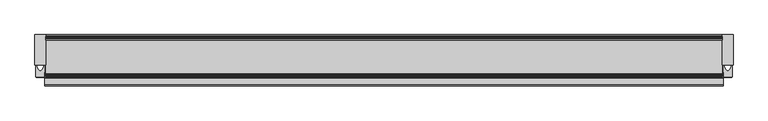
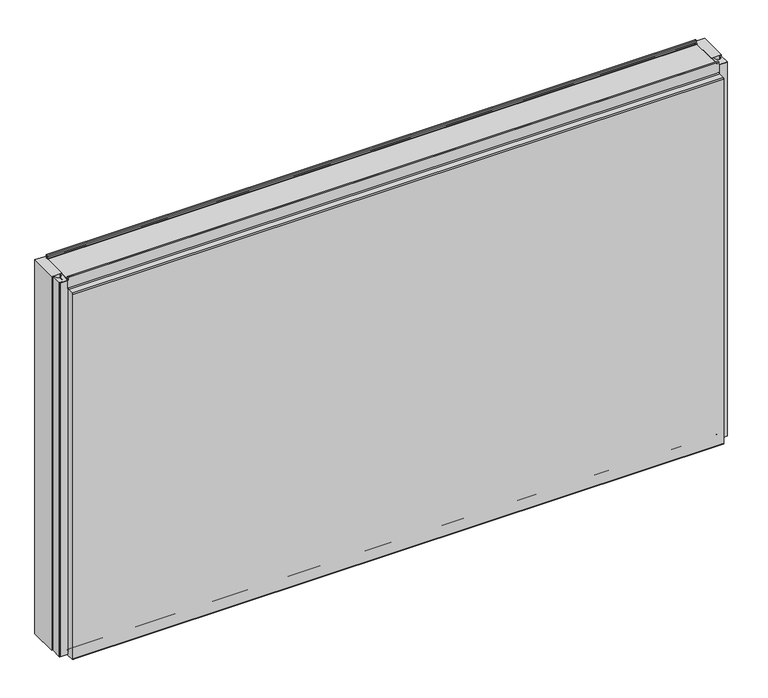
"""IFC4 building model written with IfcOpenShell, lengths in millimetres: plate geometry, Fronttop : Fronttop 150/1200."""

from ifc_helpers import new_model, si_unit, point, frame, frame_2d, origin, origin_with_axes, place, context, project, spatial, polyline, circle_curve, trimmed, segment, composite_curve, outline, extrude, source, transform, mapped, element, save
from ifc_brep_helpers import plane_surface, cylinder_surface, revolved_surface, advanced_brep


def plate_29757197(model_context):
    return source(origin(), model_context, "Body", "SolidModel", [
        advanced_brep(
        [(-986.5, -124.0, 1208.0), (-986.5, -124.0, 1200.0), (-986.5, -125.0, 1200.0), (-986.5, -125.0, 1208.0), (-986.5, -120.0, 1208.0), (-986.5, -120.0, 1204.0), (-986.5, -117.0, 1201.0), (-986.5, -115.0, 1201.0), (-986.5, -115.0, 1200.0), (-986.5, -117.0, 1200.0), (-986.5, -121.0, 1204.0), (-986.5, -121.0, 1208.0), (986.5, -125.0, 1208.0), (986.5, -125.0, 1200.0), (986.5, -124.0, 1200.0), (986.5, -124.0, 1208.0), (986.5, -121.0, 1208.0), (986.5, -121.0, 1204.0), (986.5, -117.0, 1200.0), (986.5, -115.0, 1200.0), (986.5, -115.0, 1201.0), (986.5, -117.0, 1201.0), (986.5, -120.0, 1204.0), (986.5, -120.0, 1208.0), (-986.5, -117.0, 2.0), (-986.5, -115.0, 2.0), (986.5, -115.0, 2.0), (986.5, -117.0, 2.0), (986.5, -119.0, 4.0), (-986.5, -119.0, 4.0), (986.5, -119.0, 8.0), (-986.5, -119.0, 8.0), (986.5, -126.0, 8.0), (-986.5, -126.0, 8.0), (986.5, -126.0, 0.0), (-986.5, -126.0, 0.0), (986.5, -129.0, -3.0), (-986.5, -129.0, -3.0), (986.5, -125.0, -3.0), (987.5, -125.0, -3.0), (987.5, -147.0, -3.0), (986.5, -147.0, -3.0), (-986.5, -147.0, -3.0), (-987.5, -147.0, -3.0), (-987.5, -125.0, -3.0), (-986.5, -125.0, -3.0), (986.5, -150.0, 0.0), (-986.5, -150.0, 0.0), (987.5, -150.0, 0.0), (987.5, -150.0, 1169.0), (986.5, -150.0, 1169.0), (-986.5, -150.0, 1169.0), (-987.5, -150.0, 1169.0), (-987.5, -150.0, 0.0), (986.5, -147.0, 1172.0), (-986.5, -147.0, 1172.0), (987.5, -147.0, 1172.0), (987.5, -128.0, 1172.0), (986.5, -128.0, 1172.0), (-986.5, -128.0, 1172.0), (-987.5, -128.0, 1172.0), (-987.5, -147.0, 1172.0), (986.5, -125.0, 1175.0), (-986.5, -125.0, 1175.0), (987.5, -125.0, 1175.0), (987.5, -125.0, 1200.0), (-987.5, -125.0, 1200.0), (-987.5, -125.0, 1175.0), (986.5, -124.0, 1175.0), (-986.5, -124.0, 1175.0), (986.5, -128.0, 1171.0), (-986.5, -128.0, 1171.0), (986.5, -147.0, 1171.0), (-986.5, -147.0, 1171.0), (986.5, -149.0, 1169.0), (-986.5, -149.0, 1169.0), (986.5, -149.0, 0.0), (-986.5, -149.0, 0.0), (986.5, -147.0, -2.0), (-986.5, -147.0, -2.0), (986.5, -129.0, -2.0), (-986.5, -129.0, -2.0), (986.5, -127.0, 0.0), (-986.5, -127.0, 0.0), (986.5, -127.0, 8.0), (-986.5, -127.0, 8.0), (986.5, -118.0, 8.0), (-986.5, -118.0, 8.0), (986.5, -118.0, 4.0), (-986.5, -118.0, 4.0), (986.5, -117.0, 3.0), (-986.5, -117.0, 3.0), (986.5, -115.0, 3.0), (-986.5, -115.0, 3.0), (987.5, -125.0, 0.0), (987.5, -110.0, 0.0), (987.5, -110.0, 1200.0), (986.5, -110.0, 1200.0), (986.5, -110.0, 0.0), (986.5, -125.0, 0.0), (-987.5, -110.0, 1200.0), (-987.5, -110.0, 0.0), (-987.5, -125.0, 0.0), (-986.5, -110.0, 1200.0), (-986.5, -125.0, 0.0), (-986.5, -110.0, 0.0)],
        [
            (0, 1),
            (1, 2),
            (2, 3),
            (3, 4, circle_curve(frame((-986.5, -122.5, 1208.0), z_axis=(-1.0, 0.0, 0.0), x_axis=(0.0, 1.0, 0.0)), 2.5)),
            (4, 5),
            (5, 6, circle_curve(frame((-986.5, -117.0, 1204.0), z_axis=(1.0, 0.0, 0.0), x_axis=(0.0, 1.0, 0.0)), 3.0)),
            (6, 7),
            (7, 8),
            (8, 9),
            (9, 10, circle_curve(frame((-986.5, -117.0, 1204.0), z_axis=(-1.0, 0.0, 0.0), x_axis=(0.0, 1.0, 0.0)), 4.0)),
            (10, 11),
            (11, 0, circle_curve(frame((-986.5, -122.5, 1208.0), z_axis=(1.0, 0.0, 0.0), x_axis=(0.0, 1.0, 0.0)), 1.5)),
            (12, 13),
            (13, 14),
            (14, 15),
            (15, 16, circle_curve(frame((986.5, -122.5, 1208.0), z_axis=(-1.0, 0.0, 0.0), x_axis=(0.0, 1.0, 0.0)), 1.5)),
            (16, 17),
            (17, 18, circle_curve(frame((986.5, -117.0, 1204.0), z_axis=(1.0, 0.0, 0.0), x_axis=(0.0, 1.0, 0.0)), 4.0)),
            (18, 19),
            (19, 20),
            (20, 21),
            (21, 22, circle_curve(frame((986.5, -117.0, 1204.0), z_axis=(-1.0, 0.0, 0.0), x_axis=(0.0, 1.0, 0.0)), 3.0)),
            (22, 23),
            (23, 12, circle_curve(frame((986.5, -122.5, 1208.0), z_axis=(1.0, 0.0, 0.0), x_axis=(0.0, 1.0, 0.0)), 2.5)),
            (24, 25),
            (25, 26),
            (26, 27),
            (27, 24),
            (27, 28, circle_curve(frame((986.5, -117.0, 4.0), z_axis=(-1.0, 0.0, 0.0), x_axis=(0.0, 1.0, 0.0)), 2.0)),
            (28, 29),
            (29, 24, circle_curve(frame((-986.5, -117.0, 4.0), z_axis=(1.0, 0.0, 0.0), x_axis=(0.0, 1.0, 0.0)), 2.0)),
            (28, 30),
            (30, 31),
            (31, 29),
            (30, 32, circle_curve(frame((986.5, -122.5, 8.0), z_axis=(1.0, 0.0, 0.0), x_axis=(0.0, 1.0, 0.0)), 3.5)),
            (32, 33),
            (33, 31, circle_curve(frame((-986.5, -122.5, 8.0), z_axis=(-1.0, 0.0, 0.0), x_axis=(0.0, 1.0, 0.0)), 3.5)),
            (32, 34),
            (34, 35),
            (35, 33),
            (34, 36, circle_curve(frame((986.5, -129.0, 0.0), z_axis=(-1.0, 0.0, 0.0), x_axis=(0.0, 1.0, 0.0)), 3.0)),
            (36, 37),
            (37, 35, circle_curve(frame((-986.5, -129.0, 0.0), z_axis=(1.0, 0.0, 0.0), x_axis=(0.0, 1.0, 0.0)), 3.0)),
            (36, 38),
            (38, 39),
            (39, 40),
            (40, 41),
            (41, 42),
            (42, 43),
            (43, 44),
            (44, 45),
            (45, 37),
            (41, 46, circle_curve(frame((986.5, -147.0, 0.0), z_axis=(-1.0, 0.0, 0.0), x_axis=(0.0, 1.0, 0.0)), 3.0)),
            (46, 47),
            (47, 42, circle_curve(frame((-986.5, -147.0, 0.0), z_axis=(1.0, 0.0, 0.0), x_axis=(0.0, 1.0, 0.0)), 3.0)),
            (46, 48),
            (48, 49),
            (49, 50),
            (50, 51),
            (51, 52),
            (52, 53),
            (53, 47),
            (50, 54, circle_curve(frame((986.5, -147.0, 1169.0), z_axis=(-1.0, 0.0, 0.0), x_axis=(0.0, 1.0, 0.0)), 3.0)),
            (54, 55),
            (55, 51, circle_curve(frame((-986.5, -147.0, 1169.0), z_axis=(1.0, 0.0, 0.0), x_axis=(0.0, 1.0, 0.0)), 3.0)),
            (54, 56),
            (56, 57),
            (57, 58),
            (58, 59),
            (59, 60),
            (60, 61),
            (61, 55),
            (58, 62, circle_curve(frame((986.5, -128.0, 1175.0), z_axis=(1.0, 0.0, 0.0), x_axis=(0.0, 1.0, 0.0)), 3.0)),
            (62, 63),
            (63, 59, circle_curve(frame((-986.5, -128.0, 1175.0), z_axis=(-1.0, 0.0, 0.0), x_axis=(0.0, 1.0, 0.0)), 3.0)),
            (62, 64),
            (64, 65),
            (65, 13),
            (12, 3),
            (2, 66),
            (66, 67),
            (67, 63),
            (23, 4),
            (22, 5),
            (21, 6),
            (20, 7),
            (19, 8),
            (19, 18),
            (18, 9),
            (9, 8),
            (17, 10),
            (16, 11),
            (15, 0),
            (14, 68),
            (68, 69),
            (69, 1),
            (68, 70, circle_curve(frame((986.5, -128.0, 1175.0), z_axis=(-1.0, 0.0, 0.0), x_axis=(0.0, 1.0, 0.0)), 4.0)),
            (70, 71),
            (71, 69, circle_curve(frame((-986.5, -128.0, 1175.0), z_axis=(1.0, 0.0, 0.0), x_axis=(0.0, 1.0, 0.0)), 4.0)),
            (70, 72),
            (72, 73),
            (73, 71),
            (72, 74, circle_curve(frame((986.5, -147.0, 1169.0), z_axis=(1.0, 0.0, 0.0), x_axis=(0.0, 1.0, 0.0)), 2.0)),
            (74, 75),
            (75, 73, circle_curve(frame((-986.5, -147.0, 1169.0), z_axis=(-1.0, 0.0, 0.0), x_axis=(0.0, 1.0, 0.0)), 2.0)),
            (74, 76),
            (76, 77),
            (77, 75),
            (76, 78, circle_curve(frame((986.5, -147.0, 0.0), z_axis=(1.0, 0.0, 0.0), x_axis=(0.0, 1.0, 0.0)), 2.0)),
            (78, 79),
            (79, 77, circle_curve(frame((-986.5, -147.0, 0.0), z_axis=(-1.0, 0.0, 0.0), x_axis=(0.0, 1.0, 0.0)), 2.0)),
            (78, 80),
            (80, 81),
            (81, 79),
            (80, 82, circle_curve(frame((986.5, -129.0, 0.0), z_axis=(1.0, 0.0, 0.0), x_axis=(0.0, 1.0, 0.0)), 2.0)),
            (82, 83),
            (83, 81, circle_curve(frame((-986.5, -129.0, 0.0), z_axis=(-1.0, 0.0, 0.0), x_axis=(0.0, 1.0, 0.0)), 2.0)),
            (82, 84),
            (84, 85),
            (85, 83),
            (84, 86, circle_curve(frame((986.5, -122.5, 8.0), z_axis=(-1.0, 0.0, 0.0), x_axis=(0.0, 1.0, 0.0)), 4.5)),
            (86, 87),
            (87, 85, circle_curve(frame((-986.5, -122.5, 8.0), z_axis=(1.0, 0.0, 0.0), x_axis=(0.0, 1.0, 0.0)), 4.5)),
            (86, 88),
            (88, 89),
            (89, 87),
            (88, 90, circle_curve(frame((986.5, -117.0, 4.0), z_axis=(1.0, 0.0, 0.0), x_axis=(0.0, 1.0, 0.0)), 1.0)),
            (90, 91),
            (91, 89, circle_curve(frame((-986.5, -117.0, 4.0), z_axis=(-1.0, 0.0, 0.0), x_axis=(0.0, 1.0, 0.0)), 1.0)),
            (90, 92),
            (92, 93),
            (93, 91),
            (25, 93),
            (92, 26),
            (64, 57, circle_curve(frame((987.5, -128.0, 1175.0), z_axis=(-1.0, 0.0, 0.0), x_axis=(0.0, -1.0, 0.0)), 3.0)),
            (56, 49, circle_curve(frame((987.5, -147.0, 1169.0), z_axis=(1.0, 0.0, 0.0), x_axis=(0.0, -1.0, 0.0)), 3.0)),
            (48, 40, circle_curve(frame((987.5, -147.0, 0.0), z_axis=(1.0, 0.0, 0.0), x_axis=(0.0, -1.0, 0.0)), 3.0)),
            (39, 94),
            (94, 95),
            (95, 96),
            (96, 65),
            (14, 18),
            (19, 97),
            (97, 98),
            (98, 99),
            (99, 38),
            (96, 97),
            (95, 98),
            (94, 99),
            (66, 100),
            (100, 101),
            (101, 102),
            (102, 44),
            (43, 53, circle_curve(frame((-987.5, -147.0, 0.0), z_axis=(-1.0, 0.0, 0.0), x_axis=(0.0, -1.0, 0.0)), 3.0)),
            (52, 61, circle_curve(frame((-987.5, -147.0, 1169.0), z_axis=(-1.0, 0.0, 0.0), x_axis=(0.0, -1.0, 0.0)), 3.0)),
            (60, 67, circle_curve(frame((-987.5, -128.0, 1175.0), z_axis=(1.0, 0.0, 0.0), x_axis=(0.0, -1.0, 0.0)), 3.0)),
            (103, 8),
            (9, 1),
            (45, 104),
            (104, 105),
            (105, 103),
            (103, 100),
            (105, 101),
            (104, 102),
        ],
        [
            plane_surface(frame((-986.5, 0.0, 0.0), z_axis=(-1.0, 0.0, 0.0), x_axis=(0.0, 0.0, 1.0))),
            plane_surface(frame((986.5, 0.0, 0.0), z_axis=(1.0, 0.0, 0.0), x_axis=(0.0, 0.0, 1.0))),
            plane_surface(frame((-986.5, -117.0, 2.0), z_axis=(0.0, 0.0, -1.0), x_axis=(1.0, 0.0, 0.0))),
            cylinder_surface(frame((-986.5, -117.0, 4.0), z_axis=(-1.0, 0.0, 0.0), x_axis=(0.0, 1.0, 0.0)), 2.0),
            plane_surface(frame((-986.5, -119.0, 8.0), z_axis=(0.0, -1.0, 0.0), x_axis=(1.0, 0.0, 0.0))),
            revolved_surface(polyline([(986.5, -119.0, 8.0), (-986.5, -119.0, 8.0)]), (-986.5, -122.5, 8.0), (1.0, 0.0, 0.0)),
            plane_surface(frame((-986.5, -126.0, 0.0), z_axis=(0.0, 1.0, 0.0), x_axis=(1.0, 0.0, 0.0))),
            cylinder_surface(frame((-986.5, -129.0, 0.0), z_axis=(-1.0, 0.0, 0.0), x_axis=(0.0, 1.0, 0.0)), 3.0),
            plane_surface(frame((-986.5, -147.0, -3.0), z_axis=(0.0, 0.0, -1.0), x_axis=(1.0, 0.0, 0.0))),
            cylinder_surface(frame((-986.5, -147.0, 0.0), z_axis=(-1.0, 0.0, 0.0), x_axis=(0.0, 1.0, 0.0)), 3.0),
            plane_surface(frame((-986.5, -150.0, 1169.0), z_axis=(0.0, -1.0, 0.0), x_axis=(1.0, 0.0, 0.0))),
            cylinder_surface(frame((-986.5, -147.0, 1169.0), z_axis=(-1.0, 0.0, 0.0), x_axis=(0.0, 1.0, 0.0)), 3.0),
            plane_surface(frame((-986.5, -128.0, 1172.0), z_axis=(0.0, 0.0, 1.0), x_axis=(1.0, 0.0, 0.0))),
            revolved_surface(polyline([(986.5, -125.0, 1175.0), (-986.5, -125.0, 1175.0)]), (-986.5, -128.0, 1175.0), (1.0, 0.0, 0.0)),
            plane_surface(frame((-986.5, -125.0, 1208.0), z_axis=(0.0, -1.0, 0.0), x_axis=(1.0, 0.0, 0.0))),
            cylinder_surface(frame((-986.5, -122.5, 1208.0), z_axis=(-1.0, 0.0, 0.0), x_axis=(0.0, 1.0, 0.0)), 2.5),
            plane_surface(frame((-986.5, -120.0, 1204.0), z_axis=(0.0, 1.0, 0.0), x_axis=(1.0, 0.0, 0.0))),
            revolved_surface(polyline([(986.5, -114.0, 1204.0), (-986.5, -114.0, 1204.0)]), (-986.5, -117.0, 1204.0), (1.0, 0.0, 0.0)),
            plane_surface(frame((-986.5, -115.0, 1201.0), z_axis=(0.0, 0.0, 1.0), x_axis=(1.0, 0.0, 0.0))),
            plane_surface(frame((-986.5, -115.0, 1200.0), z_axis=(0.0, 1.0, 0.0), x_axis=(1.0, 0.0, 0.0))),
            plane_surface(frame((-986.5, -117.0, 1200.0), z_axis=(0.0, 0.0, -1.0), x_axis=(1.0, 0.0, 0.0))),
            cylinder_surface(frame((-986.5, -117.0, 1204.0), z_axis=(-1.0, 0.0, 0.0), x_axis=(0.0, 1.0, 0.0)), 4.0),
            plane_surface(frame((-986.5, -121.0, 1208.0), z_axis=(0.0, -1.0, 0.0), x_axis=(1.0, 0.0, 0.0))),
            revolved_surface(polyline([(986.5, -121.0, 1208.0), (-986.5, -121.0, 1208.0)]), (-986.5, -122.5, 1208.0), (1.0, 0.0, 0.0)),
            plane_surface(frame((-986.5, -124.0, 1175.0), z_axis=(0.0, 1.0, 0.0), x_axis=(1.0, 0.0, 0.0))),
            cylinder_surface(frame((-986.5, -128.0, 1175.0), z_axis=(-1.0, 0.0, 0.0), x_axis=(0.0, 1.0, 0.0)), 4.0),
            plane_surface(frame((-986.5, -147.0, 1171.0), z_axis=(0.0, 0.0, -1.0), x_axis=(1.0, 0.0, 0.0))),
            revolved_surface(polyline([(986.5, -145.0, 1169.0), (-986.5, -145.0, 1169.0)]), (-986.5, -147.0, 1169.0), (1.0, 0.0, 0.0)),
            plane_surface(frame((-986.5, -149.0, 0.0), z_axis=(0.0, 1.0, 0.0), x_axis=(1.0, 0.0, 0.0))),
            revolved_surface(polyline([(986.5, -145.0, 0.0), (-986.5, -145.0, 0.0)]), (-986.5, -147.0, 0.0), (1.0, 0.0, 0.0)),
            plane_surface(frame((-986.5, -129.0, -2.0), z_axis=(0.0, 0.0, 1.0), x_axis=(1.0, 0.0, 0.0))),
            revolved_surface(polyline([(986.5, -127.0, 0.0), (-986.5, -127.0, 0.0)]), (-986.5, -129.0, 0.0), (1.0, 0.0, 0.0)),
            plane_surface(frame((-986.5, -127.0, 8.0), z_axis=(0.0, -1.0, 0.0), x_axis=(1.0, 0.0, 0.0))),
            cylinder_surface(frame((-986.5, -122.5, 8.0), z_axis=(-1.0, 0.0, 0.0), x_axis=(0.0, 1.0, 0.0)), 4.5),
            plane_surface(frame((-986.5, -118.0, 4.0), z_axis=(0.0, 1.0, 0.0), x_axis=(1.0, 0.0, 0.0))),
            revolved_surface(polyline([(986.5, -116.0, 4.0), (-986.5, -116.0, 4.0)]), (-986.5, -117.0, 4.0), (1.0, 0.0, 0.0)),
            plane_surface(frame((-986.5, -115.0, 3.0), z_axis=(0.0, 0.0, 1.0), x_axis=(1.0, 0.0, 0.0))),
            plane_surface(frame((-986.5, -115.0, 2.0), z_axis=(0.0, 1.0, 0.0), x_axis=(1.0, 0.0, 0.0))),
            plane_surface(frame((987.5, -125.0, 1200.0), z_axis=(1.0, 0.0, 0.0), x_axis=(0.0, 1.0, 0.0))),
            plane_surface(frame((986.5, -125.0, 1200.0), z_axis=(-1.0, 0.0, 0.0), x_axis=(0.0, -1.0, 0.0))),
            plane_surface(frame((987.5, -125.0, 1200.0), z_axis=(0.0, 0.0, 1.0), x_axis=(-1.0, 0.0, 0.0))),
            plane_surface(frame((987.5, -110.0, 1200.0), z_axis=(0.0, 1.0, 0.0), x_axis=(-1.0, 0.0, 0.0))),
            plane_surface(frame((987.5, -110.0, 0.0), z_axis=(0.0, 0.0, -1.0), x_axis=(-1.0, 0.0, 0.0))),
            cylinder_surface(frame((986.5, -147.0, 0.0), z_axis=(1.0, 0.0, 0.0), x_axis=(0.0, -1.0, 0.0)), 3.0),
            cylinder_surface(frame((986.5, -147.0, 1169.0), z_axis=(1.0, 0.0, 0.0), x_axis=(0.0, -1.0, 0.0)), 3.0),
            revolved_surface(polyline([(986.5, -131.0, 1175.0), (987.5, -131.0, 1175.0)]), (986.5, -128.0, 1175.0), (-1.0, 0.0, 0.0)),
            plane_surface(frame((-987.5, -125.0, 1200.0), z_axis=(-1.0, 0.0, 0.0), x_axis=(0.0, -1.0, 0.0))),
            plane_surface(frame((-986.5, -125.0, 1200.0), z_axis=(1.0, 0.0, 0.0), x_axis=(0.0, 1.0, 0.0))),
            plane_surface(frame((-986.5, -125.0, 1200.0), z_axis=(0.0, 0.0, 1.0), x_axis=(-1.0, 0.0, 0.0))),
            plane_surface(frame((-986.5, -110.0, 1200.0), z_axis=(0.0, 1.0, 0.0), x_axis=(-1.0, 0.0, 0.0))),
            plane_surface(frame((-986.5, -110.0, 0.0), z_axis=(0.0, 0.0, -1.0), x_axis=(-1.0, 0.0, 0.0))),
            cylinder_surface(frame((-987.5, -147.0, 0.0), z_axis=(1.0, 0.0, 0.0), x_axis=(0.0, -1.0, 0.0)), 3.0),
            cylinder_surface(frame((-987.5, -147.0, 1169.0), z_axis=(1.0, 0.0, 0.0), x_axis=(0.0, -1.0, 0.0)), 3.0),
            revolved_surface(polyline([(-987.5, -131.0, 1175.0), (-986.5, -131.0, 1175.0)]), (-987.5, -128.0, 1175.0), (-1.0, 0.0, 0.0)),
            plane_surface(frame((987.5, -125.0, 0.0), z_axis=(0.0, 1.0, 0.0), x_axis=(-1.0, 0.0, 0.0))),
            plane_surface(frame((-986.5, -125.0, 0.0), z_axis=(0.0, 1.0, 0.0), x_axis=(-1.0, 0.0, 0.0))),
        ],
        [
            (0, [[1, 2, 3, 4, 5, 6, 7, 8, 9, 10, 11, 12]]),
            (1, [[13, 14, 15, 16, 17, 18, 19, 20, 21, 22, 23, 24]]),
            (2, [[25, 26, 27, 28]]),
            (3, [[29, 30, 31, -28]]),
            (4, [[32, 33, 34, -30]]),
            (5, [[35, 36, 37, -33]]),
            (6, [[38, 39, 40, -36]]),
            (7, [[41, 42, 43, -39]]),
            (8, [[44, 45, 46, 47, 48, 49, 50, 51, 52, -42]]),
            (9, [[53, 54, 55, -48]]),
            (10, [[56, 57, 58, 59, 60, 61, 62, -54]]),
            (11, [[63, 64, 65, -59]]),
            (12, [[66, 67, 68, 69, 70, 71, 72, -64]]),
            (13, [[73, 74, 75, -69]]),
            (14, [[76, 77, 78, -13, 79, -3, 80, 81, 82, -74]]),
            (15, [[-79, -24, 83, -4]]),
            (16, [[-83, -23, 84, -5]]),
            (17, [[-84, -22, 85, -6]]),
            (18, [[-85, -21, 86, -7]]),
            (19, [[-86, -20, 87, -8]]),
            (20, [[88, 89, 90, -87]]),
            (21, [[-89, -18, 91, -10]]),
            (22, [[-91, -17, 92, -11]]),
            (23, [[-92, -16, 93, -12]]),
            (24, [[-15, 94, 95, 96, -1, -93]]),
            (25, [[97, 98, 99, -95]]),
            (26, [[100, 101, 102, -98]]),
            (27, [[103, 104, 105, -101]]),
            (28, [[106, 107, 108, -104]]),
            (29, [[109, 110, 111, -107]]),
            (30, [[112, 113, 114, -110]]),
            (31, [[115, 116, 117, -113]]),
            (32, [[118, 119, 120, -116]]),
            (33, [[121, 122, 123, -119]]),
            (34, [[124, 125, 126, -122]]),
            (35, [[127, 128, 129, -125]]),
            (36, [[130, 131, 132, -128]]),
            (37, [[133, -131, 134, -26]]),
            (38, [[-77, 135, -67, 136, -57, 137, -46, 138, 139, 140, 141]]),
            (39, [[-44, -41, -38, -35, -32, -29, -27, -134, -130, -127, -124, -121, -118, -115, -112, -109, -106, -103, -100, -97, -94, 142, -88, 143, 144, 145, 146]]),
            (40, [[147, -143, -19, -142, -14, -78, -141]]),
            (41, [[148, -144, -147, -140]]),
            (42, [[149, -145, -148, -139]]),
            (43, [[-56, -53, -47, -137]]),
            (44, [[-66, -63, -58, -136]]),
            (45, [[-76, -73, -68, -135]]),
            (46, [[150, 151, 152, 153, -50, 154, -61, 155, -71, 156, -81]]),
            (47, [[157, -90, 158, -96, -99, -102, -105, -108, -111, -114, -117, -120, -123, -126, -129, -132, -133, -25, -31, -34, -37, -40, -43, -52, 159, 160, 161]]),
            (48, [[-80, -2, -158, -9, -157, 162, -150]]),
            (49, [[-162, -161, 163, -151]]),
            (50, [[-163, -160, 164, -152]]),
            (51, [[-49, -55, -62, -154]]),
            (52, [[-60, -65, -72, -155]]),
            (53, [[-70, -75, -82, -156]]),
            (54, [[-45, -146, -149, -138]]),
            (55, [[-164, -159, -51, -153]]),
        ],
    ),
        extrude(outline(composite_curve([segment(polyline([(-1012.5001545, -123.5), (-1012.5001545, -90.0), (-1009.75, -90.0), (-1009.75, -92.5)]), True, "CONTINUOUS"), segment(trimmed(circle_curve(frame_2d((-991.9661979, -89.3183984)), 18.0661619), [point((-1009.75, -92.5))], [point((-1000.0, -105.5))], True, "CARTESIAN"), True, "CONTINUOUS"), segment(trimmed(circle_curve(frame_2d((-1008.0338021, -89.3183984)), 18.0661619), [point((-1000.0, -105.5))], [point((-990.25, -92.5))], True, "CARTESIAN"), True, "CONTINUOUS"), segment(polyline([(-990.25, -92.5), (-990.25, -90.0), (-987.4998455, -90.0), (-987.4998455, -123.5), (-999.25, -123.5), (-999.25, -107.5), (-1000.75, -107.5), (-1000.75, -123.5), (-1012.5001545, -123.5)]), True, "CONTINUOUS")], self_intersect=False)), origin_with_axes(), (0.0, 0.0, 1.0), 1200.0),
        extrude(outline(polyline([(-984.5, 0.0), (-984.5, -88.0), (-1015.5, -88.0), (-1015.5, 0.0), (-984.5, 0.0)])), origin_with_axes(), (0.0, 0.0, 1.0), 1200.0),
        extrude(outline(polyline([(-1011.5051154, -125.0), (-1011.5051154, -123.5), (-1000.65, -123.5), (-1000.65, -109.0759655), (-999.3497504, -109.0759655), (-999.3497504, -123.5), (-988.4948846, -123.5), (-988.4948846, -125.0), (-1011.5051154, -125.0)])), origin_with_axes(), (0.0, 0.0, 1.0), 1200.0),
        extrude(outline(composite_curve([segment(polyline([(987.4998455, -123.5), (987.4998455, -90.0), (990.25, -90.0), (990.25, -92.5)]), True, "CONTINUOUS"), segment(trimmed(circle_curve(frame_2d((1008.0338021, -89.3183984)), 18.0661619), [point((990.25, -92.5))], [point((1000.0, -105.5))], True, "CARTESIAN"), True, "CONTINUOUS"), segment(trimmed(circle_curve(frame_2d((991.9661979, -89.3183984)), 18.0661619), [point((1000.0, -105.5))], [point((1009.75, -92.5))], True, "CARTESIAN"), True, "CONTINUOUS"), segment(polyline([(1009.75, -92.5), (1009.75, -90.0), (1012.5001545, -90.0), (1012.5001545, -123.5), (1000.75, -123.5), (1000.75, -107.5), (999.25, -107.5), (999.25, -123.5), (987.4998455, -123.5)]), True, "CONTINUOUS")], self_intersect=False)), origin_with_axes(), (0.0, 0.0, 1.0), 1200.0),
        extrude(outline(polyline([(1015.5, 0.0), (1015.5, -88.0), (984.5, -88.0), (984.5, 0.0), (1015.5, 0.0)])), origin_with_axes(), (0.0, 0.0, 1.0), 1200.0),
        extrude(outline(polyline([(988.4948846, -125.0), (988.4948846, -123.5), (999.35, -123.5), (999.35, -109.0759655), (1000.6502496, -109.0759655), (1000.6502496, -123.5), (1011.5051154, -123.5), (1011.5051154, -125.0), (988.4948846, -125.0)])), origin_with_axes(), (0.0, 0.0, 1.0), 1200.0),
        advanced_brep(
        [(-984.5, -13.0, 1201.0), (-984.5, -10.0, 1204.0), (-984.5, -10.0, 1208.0), (-984.5, -5.0, 1208.0), (-984.5, -5.0, 1199.5), (-984.5, -2.2239212, 1197.0152907), (-984.5, 0.0, 1195.0), (-984.5, 0.0, -0.5), (-984.5, -4.0, -0.5), (-984.5, -4.0, 8.0), (-984.5, -11.0, 8.0), (-984.5, -11.0, 4.0), (-984.5, -13.0, 2.0), (-984.5, -15.0, 2.0), (-984.5, -15.0, 3.0), (-984.5, -13.0, 3.0), (-984.5, -12.0, 4.0), (-984.5, -12.0, 8.0), (-984.5, -3.0, 8.0), (-984.5, -3.0, -0.5), (-984.5, -1.0, -0.5), (-984.5, -1.0, 1195.0), (-984.5, -2.1104315, 1195.9938837), (-984.5, -6.0, 1199.5), (-984.5, -6.0, 1208.0), (-984.5, -9.0, 1208.0), (-984.5, -9.0, 1204.0), (-984.5, -13.0, 1200.0), (-984.5, -15.0, 1200.0), (-984.5, -15.0, 1201.0), (984.5, -13.0, 1201.0), (984.5, -15.0, 1201.0), (984.5, -15.0, 1200.0), (984.5, -13.0, 1200.0), (984.5, -9.0, 1204.0), (984.5, -9.0, 1208.0), (984.5, -6.0, 1208.0), (984.5, -6.0, 1199.5), (984.5, -2.1134897, 1196.0214069), (984.5, -1.0, 1195.0), (984.5, -1.0, -0.5), (984.5, -3.0, -0.5), (984.5, -3.0, 8.0), (984.5, -12.0, 8.0), (984.5, -12.0, 4.0), (984.5, -13.0, 3.0), (984.5, -15.0, 3.0), (984.5, -15.0, 2.0), (984.5, -13.0, 2.0), (984.5, -11.0, 4.0), (984.5, -11.0, 8.0), (984.5, -4.0, 8.0), (984.5, -4.0, -0.5), (984.5, 0.0, -0.5), (984.5, 0.0, 1195.0), (984.5, -2.220863, 1196.9877675), (984.5, -5.0, 1199.5), (984.5, -5.0, 1208.0), (984.5, -10.0, 1208.0), (984.5, -10.0, 1204.0)],
        [
            (0, 1, circle_curve(frame((-984.5, -13.0, 1204.0), z_axis=(1.0, 0.0, 0.0), x_axis=(0.0, 1.0, 0.0)), 3.0)),
            (1, 2),
            (2, 3, circle_curve(frame((-984.5, -7.5, 1208.0), z_axis=(-1.0, 0.0, 0.0), x_axis=(0.0, 1.0, 0.0)), 2.5)),
            (3, 4),
            (4, 5, circle_curve(frame((-984.5, -2.5, 1199.5), z_axis=(1.0, 0.0, 0.0), x_axis=(0.0, 1.0, 0.0)), 2.5)),
            (5, 6, circle_curve(frame((-984.5, -2.0, 1195.0), z_axis=(-1.0, 0.0, 0.0), x_axis=(0.0, 1.0, 0.0)), 2.0)),
            (6, 7),
            (7, 8, circle_curve(frame((-984.5, -2.0, -0.5), z_axis=(-1.0, 0.0, 0.0), x_axis=(0.0, 1.0, 0.0)), 2.0)),
            (8, 9),
            (9, 10, circle_curve(frame((-984.5, -7.5, 8.0), z_axis=(1.0, 0.0, 0.0), x_axis=(0.0, 1.0, 0.0)), 3.5)),
            (10, 11),
            (11, 12, circle_curve(frame((-984.5, -13.0, 4.0), z_axis=(-1.0, 0.0, 0.0), x_axis=(0.0, 1.0, 0.0)), 2.0)),
            (12, 13),
            (13, 14),
            (14, 15),
            (15, 16, circle_curve(frame((-984.5, -13.0, 4.0), z_axis=(1.0, 0.0, 0.0), x_axis=(0.0, 1.0, 0.0)), 1.0)),
            (16, 17),
            (17, 18, circle_curve(frame((-984.5, -7.5, 8.0), z_axis=(-1.0, 0.0, 0.0), x_axis=(0.0, 1.0, 0.0)), 4.5)),
            (18, 19),
            (19, 20, circle_curve(frame((-984.5, -2.0, -0.5), z_axis=(1.0, 0.0, 0.0), x_axis=(0.0, 1.0, 0.0)), 1.0)),
            (20, 21),
            (21, 22, circle_curve(frame((-984.5, -2.0, 1195.0), z_axis=(1.0, 0.0, 0.0), x_axis=(0.0, 1.0, 0.0)), 1.0)),
            (22, 23, circle_curve(frame((-984.5, -2.5, 1199.5), z_axis=(-1.0, 0.0, 0.0), x_axis=(0.0, 1.0, 0.0)), 3.5)),
            (23, 24),
            (24, 25, circle_curve(frame((-984.5, -7.5, 1208.0), z_axis=(1.0, 0.0, 0.0), x_axis=(0.0, 1.0, 0.0)), 1.5)),
            (25, 26),
            (26, 27, circle_curve(frame((-984.5, -13.0, 1204.0), z_axis=(-1.0, 0.0, 0.0), x_axis=(0.0, 1.0, 0.0)), 4.0)),
            (27, 28),
            (28, 29),
            (29, 0),
            (30, 31),
            (31, 32),
            (32, 33),
            (33, 34, circle_curve(frame((984.5, -13.0, 1204.0), z_axis=(1.0, 0.0, 0.0), x_axis=(0.0, 1.0, 0.0)), 4.0)),
            (34, 35),
            (35, 36, circle_curve(frame((984.5, -7.5, 1208.0), z_axis=(-1.0, 0.0, 0.0), x_axis=(0.0, 1.0, 0.0)), 1.5)),
            (36, 37),
            (37, 38, circle_curve(frame((984.5, -2.5, 1199.5), z_axis=(1.0, 0.0, 0.0), x_axis=(0.0, 1.0, 0.0)), 3.5)),
            (38, 39, circle_curve(frame((984.5, -2.0, 1195.0), z_axis=(-1.0, 0.0, 0.0), x_axis=(0.0, 1.0, 0.0)), 1.0)),
            (39, 40),
            (40, 41, circle_curve(frame((984.5, -2.0, -0.5), z_axis=(-1.0, 0.0, 0.0), x_axis=(0.0, 1.0, 0.0)), 1.0)),
            (41, 42),
            (42, 43, circle_curve(frame((984.5, -7.5, 8.0), z_axis=(1.0, 0.0, 0.0), x_axis=(0.0, 1.0, 0.0)), 4.5)),
            (43, 44),
            (44, 45, circle_curve(frame((984.5, -13.0, 4.0), z_axis=(-1.0, 0.0, 0.0), x_axis=(0.0, 1.0, 0.0)), 1.0)),
            (45, 46),
            (46, 47),
            (47, 48),
            (48, 49, circle_curve(frame((984.5, -13.0, 4.0), z_axis=(1.0, 0.0, 0.0), x_axis=(0.0, 1.0, 0.0)), 2.0)),
            (49, 50),
            (50, 51, circle_curve(frame((984.5, -7.5, 8.0), z_axis=(-1.0, 0.0, 0.0), x_axis=(0.0, 1.0, 0.0)), 3.5)),
            (51, 52),
            (52, 53, circle_curve(frame((984.5, -2.0, -0.5), z_axis=(1.0, 0.0, 0.0), x_axis=(0.0, 1.0, 0.0)), 2.0)),
            (53, 54),
            (54, 55, circle_curve(frame((984.5, -2.0, 1195.0), z_axis=(1.0, 0.0, 0.0), x_axis=(0.0, 1.0, 0.0)), 2.0)),
            (55, 56, circle_curve(frame((984.5, -2.5, 1199.5), z_axis=(-1.0, 0.0, 0.0), x_axis=(0.0, 1.0, 0.0)), 2.5)),
            (56, 57),
            (57, 58, circle_curve(frame((984.5, -7.5, 1208.0), z_axis=(1.0, 0.0, 0.0), x_axis=(0.0, 1.0, 0.0)), 2.5)),
            (58, 59),
            (59, 30, circle_curve(frame((984.5, -13.0, 1204.0), z_axis=(-1.0, 0.0, 0.0), x_axis=(0.0, 1.0, 0.0)), 3.0)),
            (29, 31),
            (30, 0),
            (28, 32),
            (27, 33),
            (26, 34),
            (25, 35),
            (24, 36),
            (23, 37),
            (22, 38),
            (21, 39),
            (20, 40),
            (19, 41),
            (18, 42),
            (17, 43),
            (16, 44),
            (15, 45),
            (14, 46),
            (13, 47),
            (12, 48),
            (11, 49),
            (10, 50),
            (9, 51),
            (8, 52),
            (7, 53),
            (6, 54),
            (5, 55),
            (4, 56),
            (3, 57),
            (2, 58),
            (1, 59),
        ],
        [
            plane_surface(frame((-984.5, 0.0, 0.0), z_axis=(-1.0, 0.0, 0.0), x_axis=(0.0, 0.0, 1.0))),
            plane_surface(frame((984.5, 0.0, 0.0), z_axis=(1.0, 0.0, 0.0), x_axis=(0.0, 0.0, 1.0))),
            plane_surface(frame((-984.5, -13.0, 1201.0), z_axis=(0.0, 0.0, 1.0), x_axis=(1.0, 0.0, 0.0))),
            plane_surface(frame((-984.5, -15.0, 1201.0), z_axis=(0.0, -1.0, 0.0), x_axis=(1.0, 0.0, 0.0))),
            plane_surface(frame((-984.5, -15.0, 1200.0), z_axis=(0.0, 0.0, -1.0), x_axis=(1.0, 0.0, 0.0))),
            cylinder_surface(frame((-984.5, -13.0, 1204.0), z_axis=(-1.0, 0.0, 0.0), x_axis=(0.0, 1.0, 0.0)), 4.0),
            plane_surface(frame((-984.5, -9.0, 1204.0), z_axis=(0.0, 1.0, 0.0), x_axis=(1.0, 0.0, 0.0))),
            revolved_surface(polyline([(984.5, -6.0, 1208.0), (-984.5, -6.0, 1208.0)]), (-984.5, -7.5, 1208.0), (1.0, 0.0, 0.0)),
            plane_surface(frame((-984.5, -6.0, 1208.0), z_axis=(0.0, -1.0, 0.0), x_axis=(1.0, 0.0, 0.0))),
            cylinder_surface(frame((-984.5, -2.5, 1199.5), z_axis=(-1.0, 0.0, 0.0), x_axis=(0.0, 1.0, 0.0)), 3.5),
            revolved_surface(polyline([(984.5, -1.0, 1195.0), (-984.5, -1.0, 1195.0)]), (-984.5, -2.0, 1195.0), (1.0, 0.0, 0.0)),
            plane_surface(frame((-984.5, -1.0, 1195.0), z_axis=(0.0, -1.0, 0.0), x_axis=(1.0, 0.0, 0.0))),
            revolved_surface(polyline([(984.5, -1.0, -0.5), (-984.5, -1.0, -0.5)]), (-984.5, -2.0, -0.5), (1.0, 0.0, 0.0)),
            plane_surface(frame((-984.5, -3.0, -0.5), z_axis=(0.0, 1.0, 0.0), x_axis=(1.0, 0.0, 0.0))),
            cylinder_surface(frame((-984.5, -7.5, 8.0), z_axis=(-1.0, 0.0, 0.0), x_axis=(0.0, 1.0, 0.0)), 4.5),
            plane_surface(frame((-984.5, -12.0, 8.0), z_axis=(0.0, -1.0, 0.0), x_axis=(1.0, 0.0, 0.0))),
            revolved_surface(polyline([(984.5, -12.0, 4.0), (-984.5, -12.0, 4.0)]), (-984.5, -13.0, 4.0), (1.0, 0.0, 0.0)),
            plane_surface(frame((-984.5, -13.0, 3.0), z_axis=(0.0, 0.0, 1.0), x_axis=(1.0, 0.0, 0.0))),
            plane_surface(frame((-984.5, -15.0, 3.0), z_axis=(0.0, -1.0, 0.0), x_axis=(1.0, 0.0, 0.0))),
            plane_surface(frame((-984.5, -15.0, 2.0), z_axis=(0.0, 0.0, -1.0), x_axis=(1.0, 0.0, 0.0))),
            cylinder_surface(frame((-984.5, -13.0, 4.0), z_axis=(-1.0, 0.0, 0.0), x_axis=(0.0, 1.0, 0.0)), 2.0),
            plane_surface(frame((-984.5, -11.0, 4.0), z_axis=(0.0, 1.0, 0.0), x_axis=(1.0, 0.0, 0.0))),
            revolved_surface(polyline([(984.5, -4.0, 8.0), (-984.5, -4.0, 8.0)]), (-984.5, -7.5, 8.0), (1.0, 0.0, 0.0)),
            plane_surface(frame((-984.5, -4.0, 8.0), z_axis=(0.0, -1.0, 0.0), x_axis=(1.0, 0.0, 0.0))),
            cylinder_surface(frame((-984.5, -2.0, -0.5), z_axis=(-1.0, 0.0, 0.0), x_axis=(0.0, 1.0, 0.0)), 2.0),
            plane_surface(frame((-984.5, 0.0, -0.5), z_axis=(0.0, 1.0, 0.0), x_axis=(1.0, 0.0, 0.0))),
            cylinder_surface(frame((-984.5, -2.0, 1195.0), z_axis=(-1.0, 0.0, 0.0), x_axis=(0.0, 1.0, 0.0)), 2.0),
            revolved_surface(polyline([(984.5, 0.0, 1199.5), (-984.5, 0.0, 1199.5)]), (-984.5, -2.5, 1199.5), (1.0, 0.0, 0.0)),
            plane_surface(frame((-984.5, -5.0, 1199.5), z_axis=(0.0, 1.0, 0.0), x_axis=(1.0, 0.0, 0.0))),
            cylinder_surface(frame((-984.5, -7.5, 1208.0), z_axis=(-1.0, 0.0, 0.0), x_axis=(0.0, 1.0, 0.0)), 2.5),
            plane_surface(frame((-984.5, -10.0, 1208.0), z_axis=(0.0, -1.0, 0.0), x_axis=(1.0, 0.0, 0.0))),
            revolved_surface(polyline([(984.5, -10.0, 1204.0), (-984.5, -10.0, 1204.0)]), (-984.5, -13.0, 1204.0), (1.0, 0.0, 0.0)),
        ],
        [
            (0, [[1, 2, 3, 4, 5, 6, 7, 8, 9, 10, 11, 12, 13, 14, 15, 16, 17, 18, 19, 20, 21, 22, 23, 24, 25, 26, 27, 28, 29, 30]]),
            (1, [[31, 32, 33, 34, 35, 36, 37, 38, 39, 40, 41, 42, 43, 44, 45, 46, 47, 48, 49, 50, 51, 52, 53, 54, 55, 56, 57, 58, 59, 60]]),
            (2, [[61, -31, 62, -30]]),
            (3, [[63, -32, -61, -29]]),
            (4, [[64, -33, -63, -28]]),
            (5, [[65, -34, -64, -27]]),
            (6, [[66, -35, -65, -26]]),
            (7, [[67, -36, -66, -25]]),
            (8, [[68, -37, -67, -24]]),
            (9, [[69, -38, -68, -23]]),
            (10, [[70, -39, -69, -22]]),
            (11, [[71, -40, -70, -21]]),
            (12, [[72, -41, -71, -20]]),
            (13, [[73, -42, -72, -19]]),
            (14, [[74, -43, -73, -18]]),
            (15, [[75, -44, -74, -17]]),
            (16, [[76, -45, -75, -16]]),
            (17, [[77, -46, -76, -15]]),
            (18, [[78, -47, -77, -14]]),
            (19, [[79, -48, -78, -13]]),
            (20, [[80, -49, -79, -12]]),
            (21, [[81, -50, -80, -11]]),
            (22, [[82, -51, -81, -10]]),
            (23, [[83, -52, -82, -9]]),
            (24, [[84, -53, -83, -8]]),
            (25, [[85, -54, -84, -7]]),
            (26, [[86, -55, -85, -6]]),
            (27, [[87, -56, -86, -5]]),
            (28, [[88, -57, -87, -4]]),
            (29, [[89, -58, -88, -3]]),
            (30, [[90, -59, -89, -2]]),
            (31, [[-62, -60, -90, -1]]),
        ],
    ),
        extrude(outline(composite_curve([segment(polyline([(-15.0, 3.0), (-15.0, 0.0), (-115.0, 0.0), (-115.0, 3.0), (-117.0, 3.0)]), True, "CONTINUOUS"), segment(trimmed(circle_curve(frame_2d((-117.0, 4.0)), 1.0), [point((-117.0, 3.0))], [point((-118.0, 4.0))], False, "CARTESIAN"), True, "CONTINUOUS"), segment(polyline([(-118.0, 4.0), (-118.0, 8.0)]), True, "CONTINUOUS"), segment(trimmed(circle_curve(frame_2d((-122.5, 8.0)), 4.5), [point((-118.0, 8.0))], [point((-127.0, 8.0))], True, "CARTESIAN"), True, "CONTINUOUS"), segment(polyline([(-127.0, 8.0), (-127.0, 0.0)]), True, "CONTINUOUS"), segment(trimmed(circle_curve(frame_2d((-129.0, 0.0)), 2.0), [point((-127.0, 0.0))], [point((-129.0, -2.0))], False, "CARTESIAN"), True, "CONTINUOUS"), segment(polyline([(-129.0, -2.0), (-147.0, -2.0)]), True, "CONTINUOUS"), segment(trimmed(circle_curve(frame_2d((-147.0, 0.0)), 2.0), [point((-147.0, -2.0))], [point((-149.0, 0.0))], False, "CARTESIAN"), True, "CONTINUOUS"), segment(polyline([(-149.0, 0.0), (-149.0, 1169.0)]), True, "CONTINUOUS"), segment(trimmed(circle_curve(frame_2d((-147.0, 1169.0)), 2.0), [point((-149.0, 1169.0))], [point((-147.0, 1171.0))], False, "CARTESIAN"), True, "CONTINUOUS"), segment(polyline([(-147.0, 1171.0), (-128.0, 1171.0)]), True, "CONTINUOUS"), segment(trimmed(circle_curve(frame_2d((-128.0, 1175.0)), 4.0), [point((-128.0, 1171.0))], [point((-124.0, 1175.0))], True, "CARTESIAN"), True, "CONTINUOUS"), segment(polyline([(-124.0, 1175.0), (-124.0, 1208.0)]), True, "CONTINUOUS"), segment(trimmed(circle_curve(frame_2d((-122.5, 1208.0)), 1.5), [point((-124.0, 1208.0))], [point((-121.0, 1208.0))], False, "CARTESIAN"), True, "CONTINUOUS"), segment(polyline([(-121.0, 1208.0), (-121.0, 1204.0)]), True, "CONTINUOUS"), segment(trimmed(circle_curve(frame_2d((-117.0, 1204.0)), 4.0), [point((-121.0, 1204.0))], [point((-117.0, 1200.0))], True, "CARTESIAN"), True, "CONTINUOUS"), segment(polyline([(-117.0, 1200.0), (-13.0, 1200.0)]), True, "CONTINUOUS"), segment(trimmed(circle_curve(frame_2d((-13.0, 1204.0)), 4.0), [point((-13.0, 1200.0))], [point((-9.0, 1204.0))], True, "CARTESIAN"), True, "CONTINUOUS"), segment(polyline([(-9.0, 1204.0), (-9.0, 1208.0)]), True, "CONTINUOUS"), segment(trimmed(circle_curve(frame_2d((-7.5, 1208.0)), 1.5), [point((-9.0, 1208.0))], [point((-6.0, 1208.0))], False, "CARTESIAN"), True, "CONTINUOUS"), segment(polyline([(-6.0, 1208.0), (-6.0, 1199.5)]), True, "CONTINUOUS"), segment(trimmed(circle_curve(frame_2d((-2.5, 1199.5)), 3.5), [point((-6.0, 1199.5))], [point((-2.1111111, 1196.021672))], True, "CARTESIAN"), True, "CONTINUOUS"), segment(trimmed(circle_curve(frame_2d((-2.0, 1195.0278643)), 1.0), [point((-2.1111111, 1196.021672))], [point((-1.0, 1195.0278643))], False, "CARTESIAN"), True, "CONTINUOUS"), segment(polyline([(-1.0, 1195.0278643), (-1.0, -0.5)]), True, "CONTINUOUS"), segment(trimmed(circle_curve(frame_2d((-2.0, -0.5)), 1.0), [point((-1.0, -0.5))], [point((-3.0, -0.5))], False, "CARTESIAN"), True, "CONTINUOUS"), segment(polyline([(-3.0, -0.5), (-3.0, 8.0)]), True, "CONTINUOUS"), segment(trimmed(circle_curve(frame_2d((-7.5, 8.0)), 4.5), [point((-3.0, 8.0))], [point((-12.0, 8.0))], True, "CARTESIAN"), True, "CONTINUOUS"), segment(polyline([(-12.0, 8.0), (-12.0, 4.0)]), True, "CONTINUOUS"), segment(trimmed(circle_curve(frame_2d((-13.0, 4.0)), 1.0), [point((-12.0, 4.0))], [point((-13.0, 3.0))], False, "CARTESIAN"), True, "CONTINUOUS"), segment(polyline([(-13.0, 3.0), (-15.0, 3.0)]), True, "CONTINUOUS")], self_intersect=False)), frame((-984.5, 0.0, 0.0), z_axis=(1.0, 0.0, 0.0), x_axis=(0.0, 1.0, 0.0)), (0.0, 0.0, 1.0), 1969.0),
    ])


if __name__ == "__main__":
    model = new_model("IFC4")
    model_context = context("Model", 3, world=origin())
    ifc_project = project(units=[si_unit("LENGTHUNIT", "METRE", prefix="MILLI")], contexts=[model_context])
    site = spatial("IfcSite", under=ifc_project)
    building = spatial("IfcBuilding", under=site)
    placement = place(None, origin())
    plate_shape = plate_29757197(model_context)
    element("IfcPlate", 1, ObjectType="Fronttop : Fronttop 150/1200", at=placement, inside=building, context=model_context, shape_type="MappedRepresentation", body=[
        mapped(plate_shape, transform((0.0, 0.0, 0.0), x_axis=(1.0, 0.0, 0.0), y_axis=(0.0, 1.0, 0.0), z_axis=(0.0, 0.0, 1.0))),
    ])
    save(model, "model.ifc")
